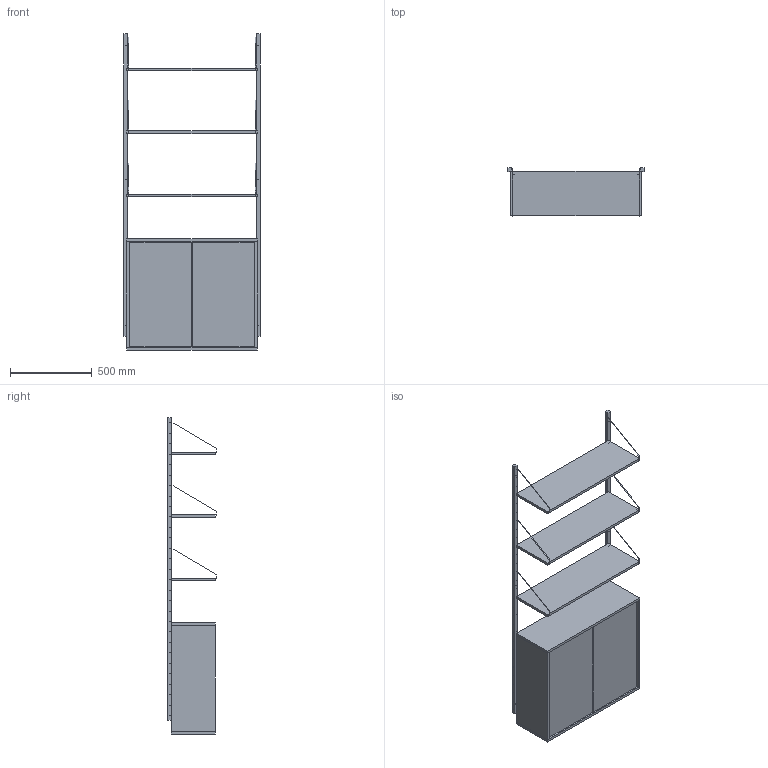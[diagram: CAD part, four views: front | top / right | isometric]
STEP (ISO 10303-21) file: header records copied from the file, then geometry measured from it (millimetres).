
FILE_DESCRIPTION(/* description */ (''),/* implementation_level */ '2;1');
FILE_NAME(/* name */ 'FRAMA_Shelf Library-Wood-Cabinet+3 Shelves-3D',/* time_stamp */ '2025-11-10T10:57:17+01:00',/* author */ (''),/* organization */ (''),/* preprocessor_version */ 'ST-DEVELOPER v16.5',/* originating_system */ 'Rhino 7.38',/* authorisation */ '');
FILE_SCHEMA (('CONFIG_CONTROL_DESIGN'));
Length unit declared in the file: millimetre
Products named in the file (3): Document; Document1; Shelf Library Rails_1852 v1
Assembly tree (2 placements, depth 3):
  Document
    Document1
      Shelf Library Rails_1852 v1
Bounding box: 834 x 295.05 x 1935 mm (x, y, z)
Volume: 41243447.6 mm3; surface area: 6738033.2 mm2
Topology: 26 solids, 26 shells, 832 faces, 1828 edges, 1184 vertices
Faces by surface type: cylinder 424, plane 292, bspline 116
Entity records: 26401 total; most frequent: CARTESIAN_POINT 13566, ORIENTED_EDGE 3648, EDGE_CURVE 1824, VERTEX_POINT 1180, EDGE_LOOP 1112, ADVANCED_FACE 832, FACE_OUTER_BOUND 832, DIRECTION 734
